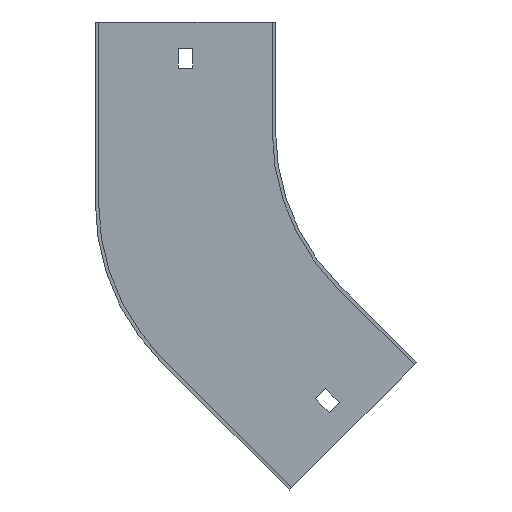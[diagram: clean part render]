
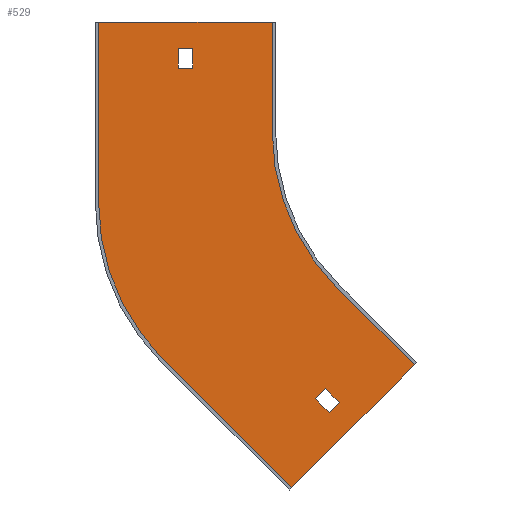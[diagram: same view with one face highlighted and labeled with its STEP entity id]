
A CAD part, front view. The second image highlights one B-rep face of the part: STEP entity #529.
In plain terms, the highlighted planar face has unit normal (0, -1, 0).
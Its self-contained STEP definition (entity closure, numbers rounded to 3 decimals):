
#1 = EDGE_CURVE ( 'NONE', #5, #106, #718, .T. ) ;
#3 = LINE ( 'NONE', #262, #662 ) ;
#5 = VERTEX_POINT ( 'NONE', #91 ) ;
#8 = VECTOR ( 'NONE', #52, 1000. ) ;
#9 = VECTOR ( 'NONE', #677, 1000. ) ;
#16 = DIRECTION ( 'NONE',  ( 0.707, 0., 0.707 ) ) ;
#17 = ORIENTED_EDGE ( 'NONE', *, *, #1, .F. ) ;
#21 = VERTEX_POINT ( 'NONE', #177 ) ;
#23 = VERTEX_POINT ( 'NONE', #436 ) ;
#52 = DIRECTION ( 'NONE',  ( 1., 0., 0. ) ) ;
#57 = DIRECTION ( 'NONE',  ( -0.707, 0., -0.707 ) ) ;
#58 = VECTOR ( 'NONE', #670, 1000. ) ;
#70 = EDGE_CURVE ( 'NONE', #21, #5, #300, .T. ) ;
#74 = EDGE_CURVE ( 'NONE', #23, #571, #233, .T. ) ;
#80 = CARTESIAN_POINT ( 'NONE',  ( 0., -1.5, 0. ) ) ;
#85 = EDGE_CURVE ( 'NONE', #306, #419, #3, .T. ) ;
#90 = VERTEX_POINT ( 'NONE', #321 ) ;
#91 = CARTESIAN_POINT ( 'NONE',  ( -100., -1.5, 0. ) ) ;
#99 = LINE ( 'NONE', #120, #515 ) ;
#106 = VERTEX_POINT ( 'NONE', #460 ) ;
#107 = DIRECTION ( 'NONE',  ( 0., 0., -1. ) ) ;
#113 = VERTEX_POINT ( 'NONE', #710 ) ;
#120 = CARTESIAN_POINT ( 'NONE',  ( -34.295, -1.5, -105.005 ) ) ;
#122 = CARTESIAN_POINT ( 'NONE',  ( -79., -1.5, -32.723 ) ) ;
#124 = LINE ( 'NONE', #652, #429 ) ;
#125 = CARTESIAN_POINT ( 'NONE',  ( -91.217, -1.5, -161.927 ) ) ;
#140 = PLANE ( 'NONE',  #463 ) ;
#144 = ORIENTED_EDGE ( 'NONE', *, *, #413, .F. ) ;
#146 = ORIENTED_EDGE ( 'NONE', *, *, #634, .T. ) ;
#152 = LINE ( 'NONE', #406, #58 ) ;
#153 = LINE ( 'NONE', #409, #222 ) ;
#160 = LINE ( 'NONE', #764, #783 ) ;
#161 = VERTEX_POINT ( 'NONE', #647 ) ;
#173 = DIRECTION ( 'NONE',  ( 0., -1., 0. ) ) ;
#174 = CARTESIAN_POINT ( 'NONE',  ( -180.5, -1.5, 50. ) ) ;
#177 = CARTESIAN_POINT ( 'NONE',  ( -100., -1.5, 50. ) ) ;
#185 = CIRCLE ( 'NONE', #623, 100. ) ;
#191 = ORIENTED_EDGE ( 'NONE', *, *, #336, .F. ) ;
#202 = FACE_BOUND ( 'NONE', #747, .T. ) ;
#212 = CARTESIAN_POINT ( 'NONE',  ( -75.837, -1.5, -116.849 ) ) ;
#213 = DIRECTION ( 'NONE',  ( 0.707, 0., -0.707 ) ) ;
#222 = VECTOR ( 'NONE', #359, 1000. ) ;
#232 = VERTEX_POINT ( 'NONE', #608 ) ;
#233 = LINE ( 'NONE', #125, #252 ) ;
#237 = VECTOR ( 'NONE', #213, 1000. ) ;
#245 = DIRECTION ( 'NONE',  ( 0., 0., 1. ) ) ;
#248 = LINE ( 'NONE', #379, #385 ) ;
#252 = VECTOR ( 'NONE', #802, 1000. ) ;
#258 = CARTESIAN_POINT ( 'NONE',  ( -136.25, -1.5, 29. ) ) ;
#262 = CARTESIAN_POINT ( 'NONE',  ( -136.25, -1.5, 0. ) ) ;
#272 = DIRECTION ( 'NONE',  ( 0., 0., -1. ) ) ;
#279 = EDGE_CURVE ( 'NONE', #106, #537, #541, .T. ) ;
#282 = ORIENTED_EDGE ( 'NONE', *, *, #806, .F. ) ;
#286 = CARTESIAN_POINT ( 'NONE',  ( -69.473, -1.5, -123.213 ) ) ;
#300 = LINE ( 'NONE', #561, #785 ) ;
#306 = VERTEX_POINT ( 'NONE', #617 ) ;
#319 = AXIS2_PLACEMENT_3D ( 'NONE', #758, #173, #107 ) ;
#321 = CARTESIAN_POINT ( 'NONE',  ( -179., -1.5, -32.723 ) ) ;
#336 = EDGE_CURVE ( 'NONE', #680, #554, #153, .T. ) ;
#341 = ORIENTED_EDGE ( 'NONE', *, *, #279, .F. ) ;
#359 = DIRECTION ( 'NONE',  ( -0.707, 0., 0.707 ) ) ;
#366 = ORIENTED_EDGE ( 'NONE', *, *, #74, .F. ) ;
#379 = CARTESIAN_POINT ( 'NONE',  ( 0., -1.5, 29. ) ) ;
#383 = DIRECTION ( 'NONE',  ( 0., 1., 0. ) ) ;
#385 = VECTOR ( 'NONE', #509, 1000. ) ;
#388 = DIRECTION ( 'NONE',  ( 0., 0., -1. ) ) ;
#391 = ORIENTED_EDGE ( 'NONE', *, *, #748, .F. ) ;
#402 = VERTEX_POINT ( 'NONE', #707 ) ;
#406 = CARTESIAN_POINT ( 'NONE',  ( 0., -1.5, 38. ) ) ;
#409 = CARTESIAN_POINT ( 'NONE',  ( -96.343, -1.5, -96.343 ) ) ;
#413 = EDGE_CURVE ( 'NONE', #571, #90, #185, .T. ) ;
#417 = CARTESIAN_POINT ( 'NONE',  ( -100.939, -1.5, -100.939 ) ) ;
#419 = VERTEX_POINT ( 'NONE', #258 ) ;
#422 = DIRECTION ( 'NONE',  ( 0., 0., 1. ) ) ;
#429 = VECTOR ( 'NONE', #245, 1000. ) ;
#436 = CARTESIAN_POINT ( 'NONE',  ( -91.217, -1.5, -161.927 ) ) ;
#460 = CARTESIAN_POINT ( 'NONE',  ( -70.711, -1.5, -70.711 ) ) ;
#463 = AXIS2_PLACEMENT_3D ( 'NONE', #80, #799, #272 ) ;
#469 = CARTESIAN_POINT ( 'NONE',  ( -149.711, -1.5, -103.434 ) ) ;
#482 = LINE ( 'NONE', #417, #9 ) ;
#509 = DIRECTION ( 'NONE',  ( -1., 0., 0. ) ) ;
#510 = CARTESIAN_POINT ( 'NONE',  ( -179., -1.5, 50. ) ) ;
#515 = VECTOR ( 'NONE', #850, 1000. ) ;
#526 = CARTESIAN_POINT ( 'NONE',  ( -35.355, -1.5, -106.066 ) ) ;
#529 = ADVANCED_FACE ( 'NONE', ( #202, #530, #801 ), #140, .T. ) ;
#530 = FACE_OUTER_BOUND ( 'NONE', #690, .T. ) ;
#535 = VECTOR ( 'NONE', #422, 1000. ) ;
#536 = CARTESIAN_POINT ( 'NONE',  ( -70.711, -1.5, -70.711 ) ) ;
#537 = VERTEX_POINT ( 'NONE', #526 ) ;
#541 = LINE ( 'NONE', #536, #237 ) ;
#542 = EDGE_LOOP ( 'NONE', ( #654, #657, #146, #630 ) ) ;
#553 = VECTOR ( 'NONE', #57, 1000. ) ;
#554 = VERTEX_POINT ( 'NONE', #212 ) ;
#561 = CARTESIAN_POINT ( 'NONE',  ( -100., -1.5, 50. ) ) ;
#571 = VERTEX_POINT ( 'NONE', #469 ) ;
#583 = DIRECTION ( 'NONE',  ( 0., 0., -1. ) ) ;
#585 = EDGE_CURVE ( 'NONE', #161, #306, #152, .T. ) ;
#608 = CARTESIAN_POINT ( 'NONE',  ( -142.75, -1.5, 29. ) ) ;
#609 = ORIENTED_EDGE ( 'NONE', *, *, #855, .F. ) ;
#614 = CARTESIAN_POINT ( 'NONE',  ( -142.75, -1.5, 0. ) ) ;
#617 = CARTESIAN_POINT ( 'NONE',  ( -136.25, -1.5, 38. ) ) ;
#623 = AXIS2_PLACEMENT_3D ( 'NONE', #122, #383, #583 ) ;
#630 = ORIENTED_EDGE ( 'NONE', *, *, #733, .T. ) ;
#633 = ORIENTED_EDGE ( 'NONE', *, *, #648, .F. ) ;
#634 = EDGE_CURVE ( 'NONE', #419, #232, #248, .T. ) ;
#641 = CARTESIAN_POINT ( 'NONE',  ( 20.506, -1.5, -20.506 ) ) ;
#643 = LINE ( 'NONE', #174, #8 ) ;
#645 = ORIENTED_EDGE ( 'NONE', *, *, #70, .F. ) ;
#646 = LINE ( 'NONE', #641, #553 ) ;
#647 = CARTESIAN_POINT ( 'NONE',  ( -142.75, -1.5, 38. ) ) ;
#648 = EDGE_CURVE ( 'NONE', #814, #21, #643, .T. ) ;
#652 = CARTESIAN_POINT ( 'NONE',  ( -179., -1.5, -32.723 ) ) ;
#654 = ORIENTED_EDGE ( 'NONE', *, *, #585, .T. ) ;
#657 = ORIENTED_EDGE ( 'NONE', *, *, #85, .T. ) ;
#662 = VECTOR ( 'NONE', #388, 1000. ) ;
#670 = DIRECTION ( 'NONE',  ( 1., 0., 0. ) ) ;
#677 = DIRECTION ( 'NONE',  ( 0.707, 0., -0.707 ) ) ;
#680 = VERTEX_POINT ( 'NONE', #286 ) ;
#690 = EDGE_LOOP ( 'NONE', ( #633, #609, #144, #366, #760, #341, #17, #645 ) ) ;
#707 = CARTESIAN_POINT ( 'NONE',  ( -74.069, -1.5, -127.81 ) ) ;
#710 = CARTESIAN_POINT ( 'NONE',  ( -80.433, -1.5, -121.446 ) ) ;
#718 = CIRCLE ( 'NONE', #319, 100. ) ;
#733 = EDGE_CURVE ( 'NONE', #232, #161, #840, .T. ) ;
#734 = ORIENTED_EDGE ( 'NONE', *, *, #735, .F. ) ;
#735 = EDGE_CURVE ( 'NONE', #402, #680, #160, .T. ) ;
#747 = EDGE_LOOP ( 'NONE', ( #191, #734, #391, #282 ) ) ;
#748 = EDGE_CURVE ( 'NONE', #113, #402, #482, .T. ) ;
#758 = CARTESIAN_POINT ( 'NONE',  ( 0., -1.5, 0. ) ) ;
#760 = ORIENTED_EDGE ( 'NONE', *, *, #781, .F. ) ;
#764 = CARTESIAN_POINT ( 'NONE',  ( 26.87, -1.5, -26.87 ) ) ;
#781 = EDGE_CURVE ( 'NONE', #537, #23, #99, .T. ) ;
#783 = VECTOR ( 'NONE', #16, 1000. ) ;
#785 = VECTOR ( 'NONE', #832, 1000. ) ;
#799 = DIRECTION ( 'NONE',  ( 0., -1., 0. ) ) ;
#801 = FACE_BOUND ( 'NONE', #542, .T. ) ;
#802 = DIRECTION ( 'NONE',  ( -0.707, 0., 0.707 ) ) ;
#806 = EDGE_CURVE ( 'NONE', #554, #113, #646, .T. ) ;
#814 = VERTEX_POINT ( 'NONE', #510 ) ;
#832 = DIRECTION ( 'NONE',  ( 0., 0., -1. ) ) ;
#840 = LINE ( 'NONE', #614, #535 ) ;
#850 = DIRECTION ( 'NONE',  ( -0.707, 0., -0.707 ) ) ;
#855 = EDGE_CURVE ( 'NONE', #90, #814, #124, .T. ) ;
